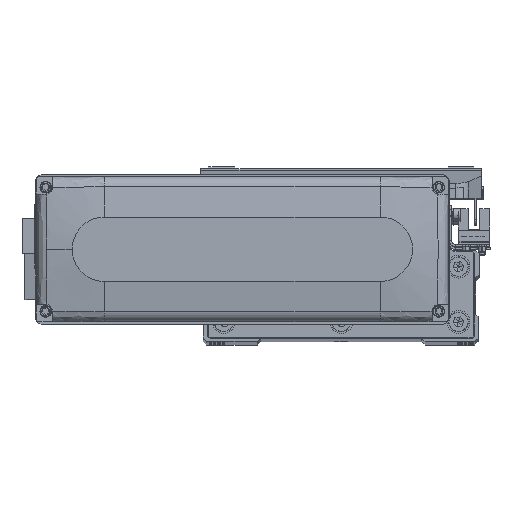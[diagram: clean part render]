
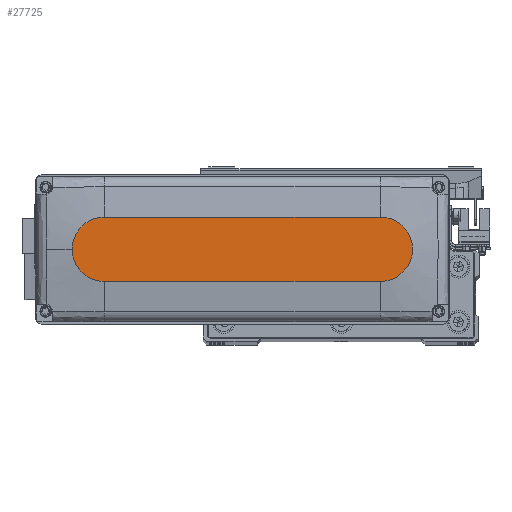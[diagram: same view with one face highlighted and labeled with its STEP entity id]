
A CAD part, top view. The second image highlights one B-rep face of the part: STEP entity #27725.
In plain terms, the highlighted planar face has unit normal (0, 0, 1).
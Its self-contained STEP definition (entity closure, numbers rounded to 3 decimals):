
#864 = VERTEX_POINT ( 'NONE', #26822 ) ;
#2203 = DIRECTION ( 'NONE',  ( 0., 0., 1. ) ) ;
#2654 = CIRCLE ( 'NONE', #29018, 14. ) ;
#2795 = DIRECTION ( 'NONE',  ( 0., 0., 1. ) ) ;
#3083 = AXIS2_PLACEMENT_3D ( 'NONE', #34497, #2203, #16571 ) ;
#3207 = VECTOR ( 'NONE', #33055, 1000. ) ;
#4322 = LINE ( 'NONE', #18683, #3207 ) ;
#6282 = AXIS2_PLACEMENT_3D ( 'NONE', #35093, #2795, #17166 ) ;
#6753 = LINE ( 'NONE', #21122, #29107 ) ;
#9760 = CARTESIAN_POINT ( 'NONE',  ( 60., -14., 28.5 ) ) ;
#9807 = ORIENTED_EDGE ( 'NONE', *, *, #16704, .T. ) ;
#9909 = CARTESIAN_POINT ( 'NONE',  ( 0., 0., 28.5 ) ) ;
#12011 = EDGE_CURVE ( 'NONE', #30307, #28799, #26598, .T. ) ;
#12361 = CARTESIAN_POINT ( 'NONE',  ( -60., 14., 28.5 ) ) ;
#13235 = CARTESIAN_POINT ( 'NONE',  ( 74., 0., 28.5 ) ) ;
#13665 = DIRECTION ( 'NONE',  ( 1., 0., 0. ) ) ;
#16571 = DIRECTION ( 'NONE',  ( 1., 0., 0. ) ) ;
#16704 = EDGE_CURVE ( 'NONE', #28799, #864, #23383, .T. ) ;
#17166 = DIRECTION ( 'NONE',  ( 1., 0., 0. ) ) ;
#18683 = CARTESIAN_POINT ( 'NONE',  ( -60., 14., 28.5 ) ) ;
#19318 = AXIS2_PLACEMENT_3D ( 'NONE', #9909, #24303, #38686 ) ;
#21122 = CARTESIAN_POINT ( 'NONE',  ( -60., -14., 28.5 ) ) ;
#21980 = EDGE_CURVE ( 'NONE', #31274, #30316, #2654, .T. ) ;
#22622 = ORIENTED_EDGE ( 'NONE', *, *, #23940, .T. ) ;
#23383 = CIRCLE ( 'NONE', #3083, 14. ) ;
#23940 = EDGE_CURVE ( 'NONE', #864, #31274, #4322, .T. ) ;
#24143 = CARTESIAN_POINT ( 'NONE',  ( -60., -14., 28.5 ) ) ;
#24303 = DIRECTION ( 'NONE',  ( 0., 0., 1. ) ) ;
#26598 = CIRCLE ( 'NONE', #6282, 14. ) ;
#26822 = CARTESIAN_POINT ( 'NONE',  ( 60., 14., 28.5 ) ) ;
#27422 = EDGE_CURVE ( 'NONE', #30316, #30307, #6753, .T. ) ;
#27725 = ADVANCED_FACE ( 'NONE', ( #27843 ), #42214, .T. ) ;
#27843 = FACE_OUTER_BOUND ( 'NONE', #44311, .T. ) ;
#28799 = VERTEX_POINT ( 'NONE', #13235 ) ;
#29018 = AXIS2_PLACEMENT_3D ( 'NONE', #31607, #45976, #13665 ) ;
#29107 = VECTOR ( 'NONE', #35504, 1000. ) ;
#29191 = ORIENTED_EDGE ( 'NONE', *, *, #21980, .T. ) ;
#30307 = VERTEX_POINT ( 'NONE', #9760 ) ;
#30316 = VERTEX_POINT ( 'NONE', #24143 ) ;
#31274 = VERTEX_POINT ( 'NONE', #12361 ) ;
#31607 = CARTESIAN_POINT ( 'NONE',  ( -60., 0., 28.5 ) ) ;
#33055 = DIRECTION ( 'NONE',  ( -1., 0., 0. ) ) ;
#33765 = ORIENTED_EDGE ( 'NONE', *, *, #12011, .T. ) ;
#34497 = CARTESIAN_POINT ( 'NONE',  ( 60., 0., 28.5 ) ) ;
#35093 = CARTESIAN_POINT ( 'NONE',  ( 60., 0., 28.5 ) ) ;
#35504 = DIRECTION ( 'NONE',  ( 1., 0., 0. ) ) ;
#38686 = DIRECTION ( 'NONE',  ( 1., 0., 0. ) ) ;
#40649 = ORIENTED_EDGE ( 'NONE', *, *, #27422, .T. ) ;
#42214 = PLANE ( 'NONE',  #19318 ) ;
#44311 = EDGE_LOOP ( 'NONE', ( #22622, #29191, #40649, #33765, #9807 ) ) ;
#45976 = DIRECTION ( 'NONE',  ( 0., 0., 1. ) ) ;
